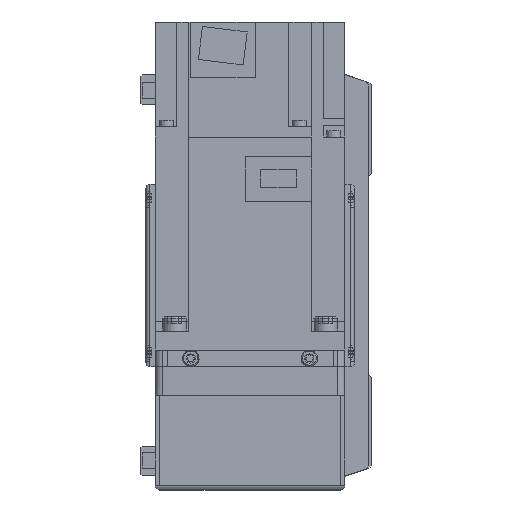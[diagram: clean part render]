
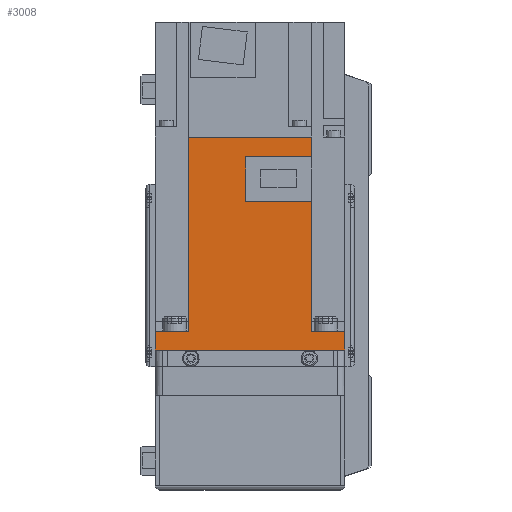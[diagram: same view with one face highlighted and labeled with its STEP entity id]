
A CAD part, left-side view. The second image highlights one B-rep face of the part: STEP entity #3008.
In plain terms, the highlighted planar face has unit normal (-1, 0, 0) as drawn and (1, 0, 0) by its records, which use the part's own axes.
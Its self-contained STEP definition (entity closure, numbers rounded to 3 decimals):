
#3008 = ADVANCED_FACE( '', ( #6567 ), #6568, .F. );
#6567 = FACE_OUTER_BOUND( '', #10495, .T. );
#6568 = PLANE( '', #10496 );
#10495 = EDGE_LOOP( '', ( #18937, #18938, #18939, #18940, #18941, #18942, #18943, #18944, #18945, #18946, #18947, #18948 ) );
#10496 = AXIS2_PLACEMENT_3D( '', #18949, #18950, #18951 );
#18937 = ORIENTED_EDGE( '', *, *, #24386, .F. );
#18938 = ORIENTED_EDGE( '', *, *, #23765, .F. );
#18939 = ORIENTED_EDGE( '', *, *, #24016, .F. );
#18940 = ORIENTED_EDGE( '', *, *, #22950, .T. );
#18941 = ORIENTED_EDGE( '', *, *, #22297, .F. );
#18942 = ORIENTED_EDGE( '', *, *, #25205, .T. );
#18943 = ORIENTED_EDGE( '', *, *, #22805, .T. );
#18944 = ORIENTED_EDGE( '', *, *, #25206, .F. );
#18945 = ORIENTED_EDGE( '', *, *, #24856, .F. );
#18946 = ORIENTED_EDGE( '', *, *, #23766, .F. );
#18947 = ORIENTED_EDGE( '', *, *, #24636, .F. );
#18948 = ORIENTED_EDGE( '', *, *, #24129, .F. );
#18949 = CARTESIAN_POINT( '', ( 40., 89.8, 40. ) );
#18950 = DIRECTION( '', ( -1., 0., 0. ) );
#18951 = DIRECTION( '', ( 0., 0., 1. ) );
#22297 = EDGE_CURVE( '', #26642, #26644, #26645, .T. );
#22805 = EDGE_CURVE( '', #27512, #27510, #27513, .T. );
#22950 = EDGE_CURVE( '', #27761, #26644, #27762, .T. );
#23765 = EDGE_CURVE( '', #29058, #27778, #29060, .T. );
#23766 = EDGE_CURVE( '', #27779, #29061, #29062, .T. );
#24016 = EDGE_CURVE( '', #27761, #29058, #29436, .T. );
#24129 = EDGE_CURVE( '', #29591, #29592, #29593, .T. );
#24386 = EDGE_CURVE( '', #27778, #29591, #29949, .T. );
#24636 = EDGE_CURVE( '', #29592, #27779, #30305, .T. );
#24856 = EDGE_CURVE( '', #29061, #30591, #30592, .T. );
#25205 = EDGE_CURVE( '', #26642, #27512, #31042, .T. );
#25206 = EDGE_CURVE( '', #30591, #27510, #31043, .T. );
#26642 = VERTEX_POINT( '', #32899 );
#26644 = VERTEX_POINT( '', #32902 );
#26645 = LINE( '', #32903, #32904 );
#27510 = VERTEX_POINT( '', #34180 );
#27512 = VERTEX_POINT( '', #34183 );
#27513 = LINE( '', #34184, #34185 );
#27761 = VERTEX_POINT( '', #34617 );
#27762 = LINE( '', #34618, #34619 );
#27778 = VERTEX_POINT( '', #34641 );
#27779 = VERTEX_POINT( '', #34642 );
#29058 = VERTEX_POINT( '', #36636 );
#29060 = LINE( '', #36639, #36640 );
#29061 = VERTEX_POINT( '', #36641 );
#29062 = LINE( '', #36642, #36643 );
#29436 = LINE( '', #37241, #37242 );
#29591 = VERTEX_POINT( '', #37507 );
#29592 = VERTEX_POINT( '', #37508 );
#29593 = LINE( '', #37509, #37510 );
#29949 = LINE( '', #38048, #38049 );
#30305 = LINE( '', #38962, #38963 );
#30591 = VERTEX_POINT( '', #39411 );
#30592 = LINE( '', #39412, #39413 );
#31042 = LINE( '', #40164, #40165 );
#31043 = LINE( '', #40166, #40167 );
#32899 = CARTESIAN_POINT( '', ( 40., 8., 40. ) );
#32902 = CARTESIAN_POINT( '', ( 40., 8., 25.95 ) );
#32903 = CARTESIAN_POINT( '', ( 40., 8., 40. ) );
#32904 = VECTOR( '', #41819, 1000. );
#34180 = CARTESIAN_POINT( '', ( 40., 0., -40. ) );
#34183 = CARTESIAN_POINT( '', ( 40., 0., 40. ) );
#34184 = CARTESIAN_POINT( '', ( 40., 0., 40. ) );
#34185 = VECTOR( '', #42497, 1000. );
#34617 = CARTESIAN_POINT( '', ( 40., 89.8, 25.95 ) );
#34618 = CARTESIAN_POINT( '', ( 40., 158., 25.95 ) );
#34619 = VECTOR( '', #42660, 1000. );
#34641 = CARTESIAN_POINT( '', ( 40., 81.4, -25.95 ) );
#34642 = CARTESIAN_POINT( '', ( 40., 62.8, -25.95 ) );
#36636 = CARTESIAN_POINT( '', ( 40., 89.8, -25.95 ) );
#36639 = CARTESIAN_POINT( '', ( 40., 158., -25.95 ) );
#36640 = VECTOR( '', #43713, 1000. );
#36641 = CARTESIAN_POINT( '', ( 40., 8., -25.95 ) );
#36642 = CARTESIAN_POINT( '', ( 40., 158., -25.95 ) );
#36643 = VECTOR( '', #43714, 1000. );
#37241 = CARTESIAN_POINT( '', ( 40., 89.8, 40. ) );
#37242 = VECTOR( '', #44013, 1000. );
#37507 = CARTESIAN_POINT( '', ( 40., 81.4, 1.8 ) );
#37508 = CARTESIAN_POINT( '', ( 40., 62.8, 1.8 ) );
#37509 = CARTESIAN_POINT( '', ( 40., 81.4, 1.8 ) );
#37510 = VECTOR( '', #44152, 1000. );
#38048 = CARTESIAN_POINT( '', ( 40., 81.4, -26. ) );
#38049 = VECTOR( '', #44462, 1000. );
#38962 = CARTESIAN_POINT( '', ( 40., 62.8, 1.8 ) );
#38963 = VECTOR( '', #44723, 1000. );
#39411 = CARTESIAN_POINT( '', ( 40., 8., -40. ) );
#39412 = CARTESIAN_POINT( '', ( 40., 8., 40. ) );
#39413 = VECTOR( '', #44963, 1000. );
#40164 = CARTESIAN_POINT( '', ( 40., 89.8, 40. ) );
#40165 = VECTOR( '', #45277, 1000. );
#40166 = CARTESIAN_POINT( '', ( 40., 89.8, -40. ) );
#40167 = VECTOR( '', #45278, 1000. );
#41819 = DIRECTION( '', ( 0., 0., -1. ) );
#42497 = DIRECTION( '', ( 0., 0., -1. ) );
#42660 = DIRECTION( '', ( 0., -1., 0. ) );
#43713 = DIRECTION( '', ( 0., -1., 0. ) );
#43714 = DIRECTION( '', ( 0., -1., 0. ) );
#44013 = DIRECTION( '', ( 0., 0., -1. ) );
#44152 = DIRECTION( '', ( 0., -1., 0. ) );
#44462 = DIRECTION( '', ( 0., 0., 1. ) );
#44723 = DIRECTION( '', ( 0., 0., -1. ) );
#44963 = DIRECTION( '', ( 0., 0., -1. ) );
#45277 = DIRECTION( '', ( 0., -1., 0. ) );
#45278 = DIRECTION( '', ( 0., -1., 0. ) );
